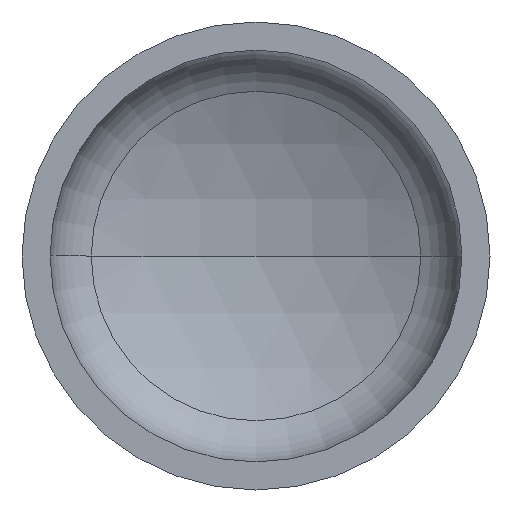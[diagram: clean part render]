
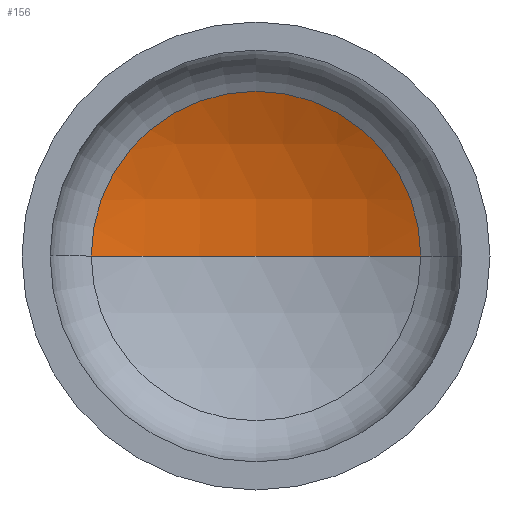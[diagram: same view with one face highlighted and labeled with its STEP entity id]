
A CAD part, front view. The second image highlights one B-rep face of the part: STEP entity #156.
In plain terms, the highlighted spherical face has radius 560 mm.
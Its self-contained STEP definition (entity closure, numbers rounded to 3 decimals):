
#9 = VERTEX_POINT ( 'NONE', #320 ) ;
#57 = VERTEX_POINT ( 'NONE', #297 ) ;
#73 = ORIENTED_EDGE ( 'NONE', *, *, #144, .T. ) ;
#80 = ORIENTED_EDGE ( 'NONE', *, *, #196, .F. ) ;
#112 = VERTEX_POINT ( 'NONE', #180 ) ;
#118 = ORIENTED_EDGE ( 'NONE', *, *, #178, .T. ) ;
#139 = DIRECTION ( 'NONE',  ( 0., 0., -1. ) ) ;
#144 = EDGE_CURVE ( 'NONE', #9, #57, #335, .T. ) ;
#149 = EDGE_LOOP ( 'NONE', ( #80, #118, #73 ) ) ;
#156 = ADVANCED_FACE ( 'NONE', ( #274 ), #404, .F. ) ;
#157 = CARTESIAN_POINT ( 'NONE',  ( 0., 228.78, 0. ) ) ;
#178 = EDGE_CURVE ( 'NONE', #112, #9, #341, .T. ) ;
#180 = CARTESIAN_POINT ( 'NONE',  ( 0., 285.901, 0. ) ) ;
#186 = DIRECTION ( 'NONE',  ( 1., 0., 0. ) ) ;
#188 = AXIS2_PLACEMENT_3D ( 'NONE', #157, #343, #186 ) ;
#196 = EDGE_CURVE ( 'NONE', #112, #57, #257, .T. ) ;
#221 = DIRECTION ( 'NONE',  ( 0., 0., 1. ) ) ;
#226 = AXIS2_PLACEMENT_3D ( 'NONE', #370, #348, #347 ) ;
#241 = AXIS2_PLACEMENT_3D ( 'NONE', #304, #139, #328 ) ;
#257 = CIRCLE ( 'NONE', #260, 560. ) ;
#260 = AXIS2_PLACEMENT_3D ( 'NONE', #381, #221, #406 ) ;
#274 = FACE_OUTER_BOUND ( 'NONE', #149, .T. ) ;
#297 = CARTESIAN_POINT ( 'NONE',  ( -246.4, 228.78, 0. ) ) ;
#304 = CARTESIAN_POINT ( 'NONE',  ( 0., -274.099, 0. ) ) ;
#320 = CARTESIAN_POINT ( 'NONE',  ( 246.4, 228.78, 0. ) ) ;
#328 = DIRECTION ( 'NONE',  ( -1., 0., 0. ) ) ;
#335 = CIRCLE ( 'NONE', #188, 246.4 ) ;
#341 = CIRCLE ( 'NONE', #241, 560. ) ;
#343 = DIRECTION ( 'NONE',  ( 0., -1., 0. ) ) ;
#347 = DIRECTION ( 'NONE',  ( -1., 0., 0. ) ) ;
#348 = DIRECTION ( 'NONE',  ( 0., 0., -1. ) ) ;
#370 = CARTESIAN_POINT ( 'NONE',  ( 0., -274.099, 0. ) ) ;
#381 = CARTESIAN_POINT ( 'NONE',  ( 0., -274.099, 0. ) ) ;
#404 = SPHERICAL_SURFACE ( 'NONE', #226, 560. ) ;
#406 = DIRECTION ( 'NONE',  ( 1., 0., 0. ) ) ;
